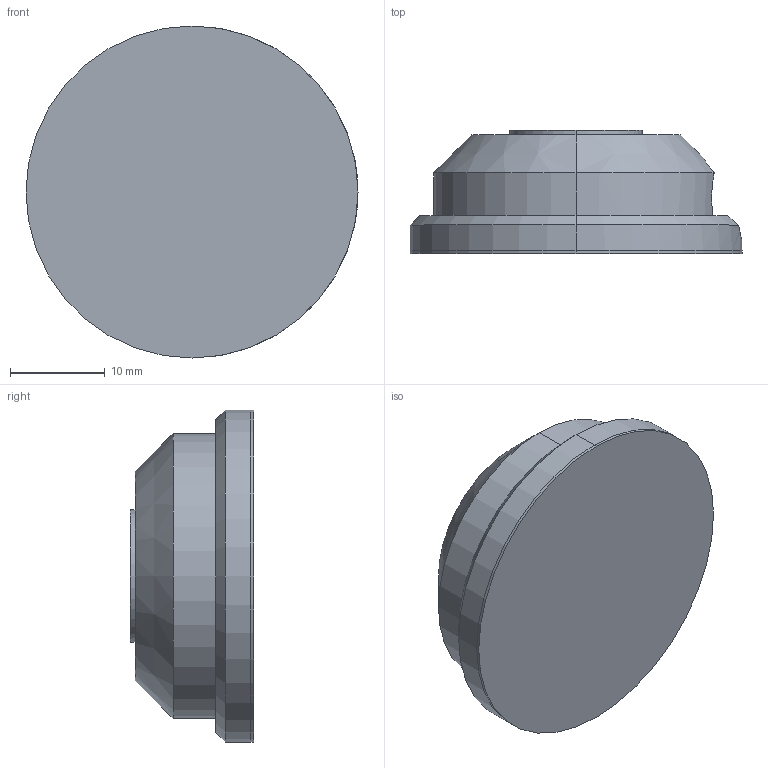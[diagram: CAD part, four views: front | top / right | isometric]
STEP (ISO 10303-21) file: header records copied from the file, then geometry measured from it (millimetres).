
FILE_DESCRIPTION (( 'STEP AP203' ), '1' );
FILE_NAME ('EZ-0053-035 Standardlager Bestell-Nr. 0009417.STEP', '2021-09-16T15:21:51', ( '' ), ( '' ), 'SwSTEP 2.0', 'SolidWorks 2021', '' );
FILE_SCHEMA (( 'CONFIG_CONTROL_DESIGN' ));
Length unit declared in the file: millimetre
Products named in the file (1): EZ-0053-035 Standardlager  Bestell-Nr. 0009417
Bounding box: 35 x 13 x 35 mm (x, y, z)
Volume: 8915.7 mm3; surface area: 5251.9 mm2
Topology: 4 solids, 4 shells, 80 faces, 183 edges, 115 vertices
Faces by surface type: cylinder 34, plane 23, cone 13, torus 8, sphere 2
Entity records: 2416 total; most frequent: CARTESIAN_POINT 473, DIRECTION 430, ORIENTED_EDGE 362, AXIS2_PLACEMENT_3D 182, EDGE_CURVE 181, VERTEX_POINT 115, CIRCLE 101, EDGE_LOOP 90
